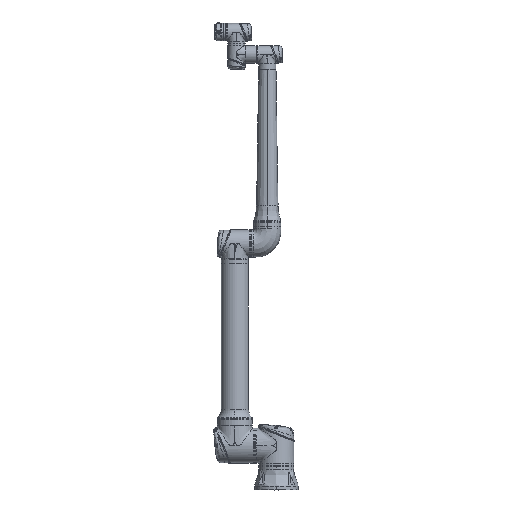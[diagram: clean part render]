
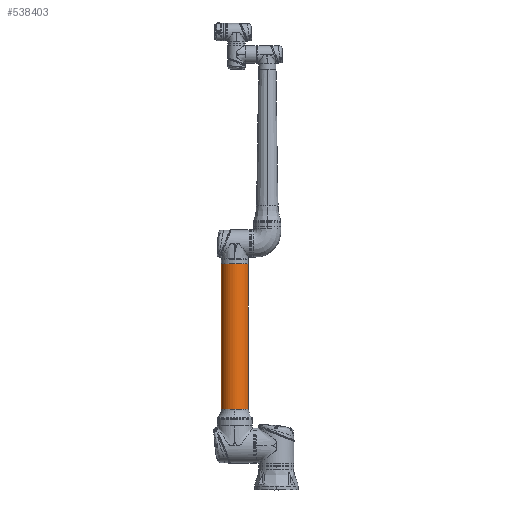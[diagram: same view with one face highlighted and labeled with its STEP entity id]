
A CAD part, top view. The second image highlights one B-rep face of the part: STEP entity #538403.
In plain terms, the highlighted cylindrical face has radius 59 mm (diameter 118 mm), a partial arc.
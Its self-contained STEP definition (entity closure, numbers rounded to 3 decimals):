
#2498 = CIRCLE ( 'NONE', #297451, 59. ) ;
#9754 = CARTESIAN_POINT ( 'NONE',  ( 562.7, 0., 59. ) ) ;
#111283 = EDGE_CURVE ( 'NONE', #457750, #371903, #2498, .T. ) ;
#112033 = LINE ( 'NONE', #286413, #508878 ) ;
#139897 = VECTOR ( 'NONE', #190746, 1000. ) ;
#153939 = EDGE_CURVE ( 'NONE', #286706, #371903, #286174, .T. ) ;
#156721 = DIRECTION ( 'NONE',  ( 1., 0., 0. ) ) ;
#159453 = FACE_OUTER_BOUND ( 'NONE', #275546, .T. ) ;
#183914 = AXIS2_PLACEMENT_3D ( 'NONE', #195749, #156721, #246250 ) ;
#190746 = DIRECTION ( 'NONE',  ( 1., 0., 0. ) ) ;
#195749 = CARTESIAN_POINT ( 'NONE',  ( 562.7, 0., 0. ) ) ;
#200790 = DIRECTION ( 'NONE',  ( 0., 1., 0. ) ) ;
#226421 = DIRECTION ( 'NONE',  ( 1., 0., 0. ) ) ;
#246250 = DIRECTION ( 'NONE',  ( 0., 0., -1. ) ) ;
#257568 = AXIS2_PLACEMENT_3D ( 'NONE', #512001, #385366, #200790 ) ;
#268260 = CARTESIAN_POINT ( 'NONE',  ( 791.1, 0., -59. ) ) ;
#269194 = CARTESIAN_POINT ( 'NONE',  ( 791.1, 0., 0. ) ) ;
#275546 = EDGE_LOOP ( 'NONE', ( #570013, #347925, #309221, #521657, #472307 ) ) ;
#280974 = EDGE_CURVE ( 'NONE', #340761, #509049, #308974, .T. ) ;
#286174 = LINE ( 'NONE', #9754, #139897 ) ;
#286413 = CARTESIAN_POINT ( 'NONE',  ( 562.7, 0., -59. ) ) ;
#286706 = VERTEX_POINT ( 'NONE', #413155 ) ;
#292530 = CIRCLE ( 'NONE', #257568, 59. ) ;
#297451 = AXIS2_PLACEMENT_3D ( 'NONE', #269194, #226421, #360470 ) ;
#304024 = DIRECTION ( 'NONE',  ( 0., 1., 0. ) ) ;
#308974 = CIRCLE ( 'NONE', #433735, 59. ) ;
#309221 = ORIENTED_EDGE ( 'NONE', *, *, #153939, .T. ) ;
#310069 = CARTESIAN_POINT ( 'NONE',  ( 158.463, 0., -59. ) ) ;
#340761 = VERTEX_POINT ( 'NONE', #310069 ) ;
#347925 = ORIENTED_EDGE ( 'NONE', *, *, #362731, .T. ) ;
#359985 = CARTESIAN_POINT ( 'NONE',  ( 158.463, 59., 0. ) ) ;
#360470 = DIRECTION ( 'NONE',  ( 0., 0., -1. ) ) ;
#362731 = EDGE_CURVE ( 'NONE', #509049, #286706, #292530, .T. ) ;
#371903 = VERTEX_POINT ( 'NONE', #393278 ) ;
#385366 = DIRECTION ( 'NONE',  ( 1., 0., 0. ) ) ;
#391568 = DIRECTION ( 'NONE',  ( 1., 0., 0. ) ) ;
#393278 = CARTESIAN_POINT ( 'NONE',  ( 791.1, 0., 59. ) ) ;
#413155 = CARTESIAN_POINT ( 'NONE',  ( 158.463, 0., 59. ) ) ;
#416818 = CYLINDRICAL_SURFACE ( 'NONE', #183914, 59. ) ;
#418699 = DIRECTION ( 'NONE',  ( 1., 0., 0. ) ) ;
#430584 = CARTESIAN_POINT ( 'NONE',  ( 158.463, 0., 0. ) ) ;
#433735 = AXIS2_PLACEMENT_3D ( 'NONE', #430584, #391568, #304024 ) ;
#457750 = VERTEX_POINT ( 'NONE', #268260 ) ;
#472307 = ORIENTED_EDGE ( 'NONE', *, *, #512673, .F. ) ;
#508878 = VECTOR ( 'NONE', #418699, 1000. ) ;
#509049 = VERTEX_POINT ( 'NONE', #359985 ) ;
#512001 = CARTESIAN_POINT ( 'NONE',  ( 158.463, 0., 0. ) ) ;
#512673 = EDGE_CURVE ( 'NONE', #340761, #457750, #112033, .T. ) ;
#521657 = ORIENTED_EDGE ( 'NONE', *, *, #111283, .F. ) ;
#538403 = ADVANCED_FACE ( 'NONE', ( #159453 ), #416818, .T. ) ;
#570013 = ORIENTED_EDGE ( 'NONE', *, *, #280974, .T. ) ;
